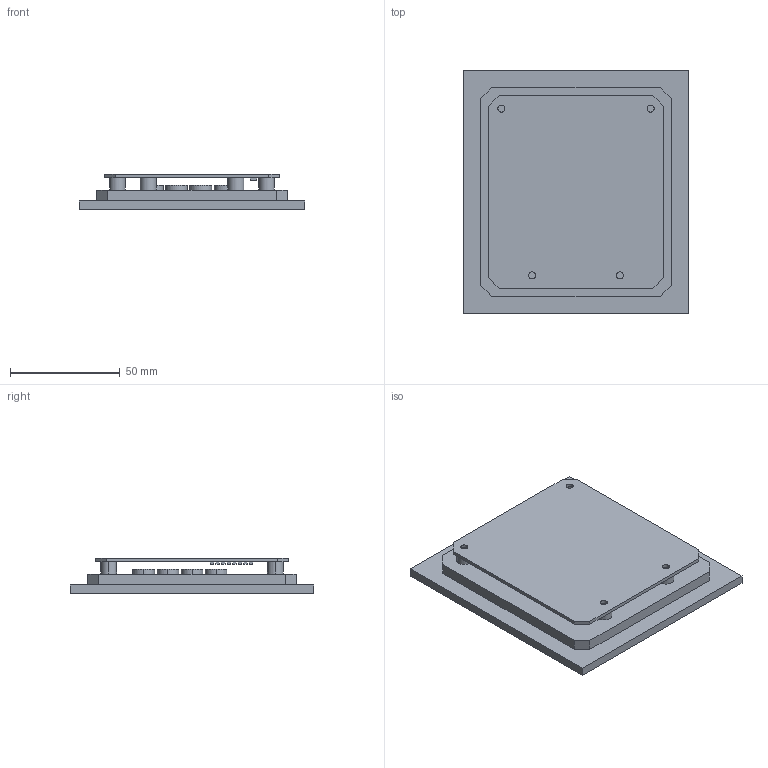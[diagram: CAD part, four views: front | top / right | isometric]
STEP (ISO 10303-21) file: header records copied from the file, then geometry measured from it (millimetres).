
FILE_DESCRIPTION (( 'STEP AP203' ), '1' );
FILE_NAME ('Array_jig_assembly.step', '2026-09-30T11:37:38', ( '' ), ( '' ), 'SwSTEP 2.0', 'SolidWorks 2025', '' );
FILE_SCHEMA (( 'CONFIG_CONTROL_DESIGN' ));
Length unit declared in the file: millimetre
Products named in the file (6): 01_array_alignment_jig; REF_common_flat_datum; Array_jig_assembly; REF_pcb_80x88; REF_16_emitters; REF_top_resistor_envelopes
Assembly tree (5 placements, depth 2):
  Array_jig_assembly
    01_array_alignment_jig
    REF_common_flat_datum
    REF_16_emitters
    REF_top_resistor_envelopes
    REF_pcb_80x88
Bounding box: 103 x 111 x 16.2 mm (x, y, z)
Volume: 99483.8 mm3; surface area: 64133.6 mm2
Topology: 27 solids, 27 shells, 206 faces, 444 edges, 296 vertices
Faces by surface type: plane 118, cylinder 88
Entity records: 6332 total; most frequent: DIRECTION 1048, CARTESIAN_POINT 954, ORIENTED_EDGE 888, EDGE_CURVE 444, AXIS2_PLACEMENT_3D 390, VERTEX_POINT 296, VECTOR 268, LINE 268
